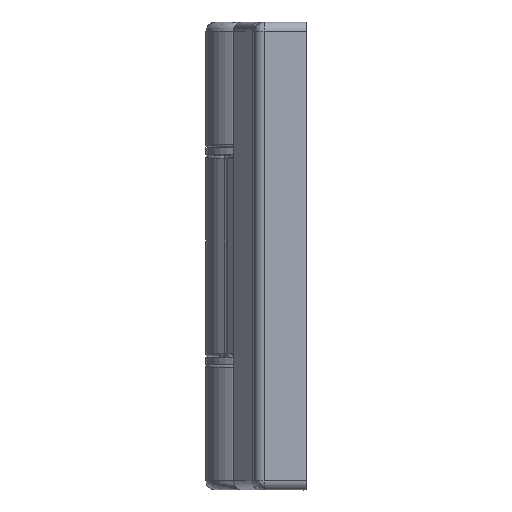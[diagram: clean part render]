
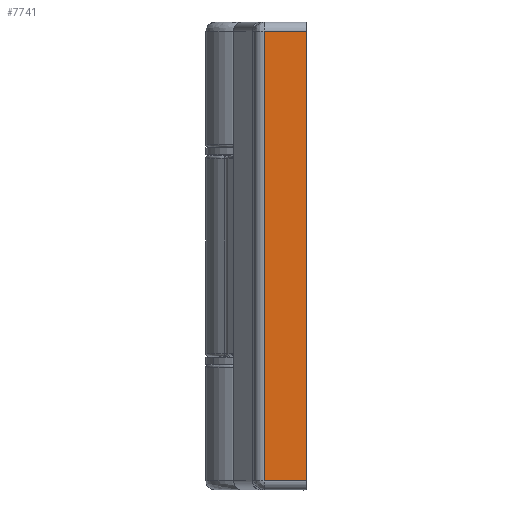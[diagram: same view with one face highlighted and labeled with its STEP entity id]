
A CAD part, left-side view. The second image highlights one B-rep face of the part: STEP entity #7741.
In plain terms, the highlighted planar face has unit normal (-1, 0, 0) as drawn and (1, 0, 0) by its records, which use the part's own axes.
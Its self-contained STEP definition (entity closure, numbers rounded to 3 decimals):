
#1732 = EDGE_CURVE ( 'NONE', #4556, #14206, #9508, .T. ) ;
#1957 = VECTOR ( 'NONE', #25236, 1000. ) ;
#2776 = ORIENTED_EDGE ( 'NONE', *, *, #8100, .T. ) ;
#2826 = CARTESIAN_POINT ( 'NONE',  ( 70., -41.723, 71.5 ) ) ;
#3421 = EDGE_CURVE ( 'NONE', #12162, #4556, #10554, .T. ) ;
#4556 = VERTEX_POINT ( 'NONE', #14488 ) ;
#5485 = ORIENTED_EDGE ( 'NONE', *, *, #20221, .T. ) ;
#6095 = CARTESIAN_POINT ( 'NONE',  ( 70., 13.438, -74.5 ) ) ;
#6254 = DIRECTION ( 'NONE',  ( 0., 0., -1. ) ) ;
#7741 = ADVANCED_FACE ( 'NONE', ( #26602 ), #26754, .T. ) ;
#8100 = EDGE_CURVE ( 'NONE', #12162, #17474, #23161, .T. ) ;
#8923 = DIRECTION ( 'NONE',  ( 1., 0., 0. ) ) ;
#9508 = LINE ( 'NONE', #2826, #29348 ) ;
#10140 = EDGE_LOOP ( 'NONE', ( #11037, #2776, #5485, #12978 ) ) ;
#10554 = LINE ( 'NONE', #12355, #26343 ) ;
#11037 = ORIENTED_EDGE ( 'NONE', *, *, #3421, .F. ) ;
#12162 = VERTEX_POINT ( 'NONE', #19295 ) ;
#12347 = CARTESIAN_POINT ( 'NONE',  ( 70., 13.438, -71.5 ) ) ;
#12355 = CARTESIAN_POINT ( 'NONE',  ( 70., 0., -74.5 ) ) ;
#12978 = ORIENTED_EDGE ( 'NONE', *, *, #1732, .F. ) ;
#14206 = VERTEX_POINT ( 'NONE', #27456 ) ;
#14488 = CARTESIAN_POINT ( 'NONE',  ( 70., 0., 71.5 ) ) ;
#15014 = DIRECTION ( 'NONE',  ( 0., 0., 1. ) ) ;
#15783 = VECTOR ( 'NONE', #26443, 1000. ) ;
#17474 = VERTEX_POINT ( 'NONE', #12347 ) ;
#19295 = CARTESIAN_POINT ( 'NONE',  ( 70., 0., -71.5 ) ) ;
#20221 = EDGE_CURVE ( 'NONE', #17474, #14206, #24651, .T. ) ;
#22732 = DIRECTION ( 'NONE',  ( 0., 1., 0. ) ) ;
#23015 = CARTESIAN_POINT ( 'NONE',  ( 70., 0., -71.5 ) ) ;
#23161 = LINE ( 'NONE', #23015, #1957 ) ;
#24521 = CARTESIAN_POINT ( 'NONE',  ( 70., 0., -74.5 ) ) ;
#24651 = LINE ( 'NONE', #6095, #15783 ) ;
#25236 = DIRECTION ( 'NONE',  ( 0., 1., 0. ) ) ;
#26343 = VECTOR ( 'NONE', #15014, 1000. ) ;
#26443 = DIRECTION ( 'NONE',  ( 0., 0., 1. ) ) ;
#26602 = FACE_OUTER_BOUND ( 'NONE', #10140, .T. ) ;
#26754 = PLANE ( 'NONE',  #29339 ) ;
#27456 = CARTESIAN_POINT ( 'NONE',  ( 70., 13.438, 71.5 ) ) ;
#29339 = AXIS2_PLACEMENT_3D ( 'NONE', #24521, #8923, #6254 ) ;
#29348 = VECTOR ( 'NONE', #22732, 1000. ) ;
